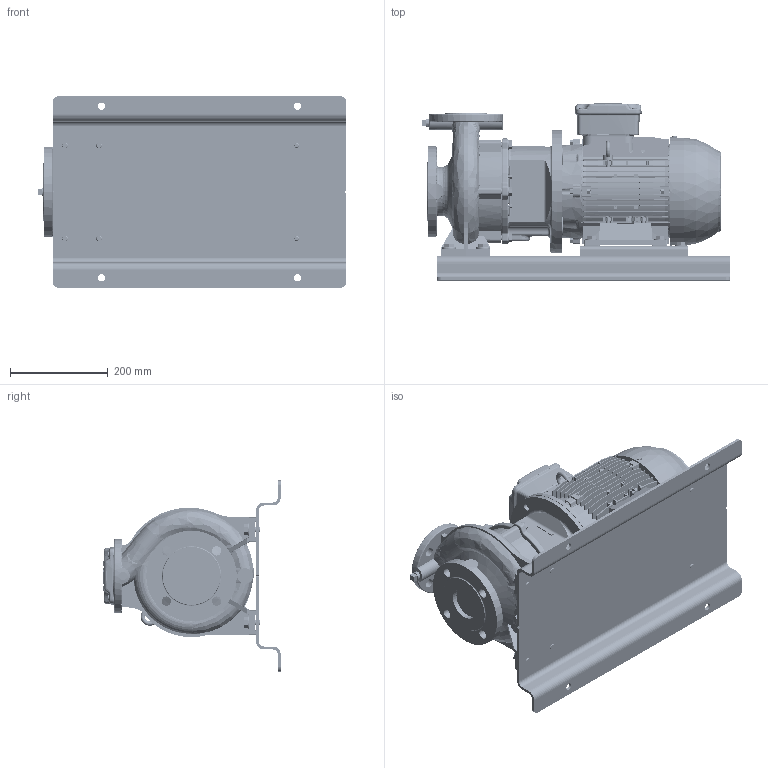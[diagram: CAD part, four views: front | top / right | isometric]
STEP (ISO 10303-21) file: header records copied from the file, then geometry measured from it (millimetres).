
FILE_DESCRIPTION (( 'STEP AP214' ), '1' );
FILE_NAME ('GSD2 40-160_4.0_(112M)_W21_BP.STEP', '2024-03-28T02:58:07', ( '' ), ( '' ), 'SwSTEP 2.0', 'SolidWorks 2019', '' );
FILE_SCHEMA (( 'AUTOMOTIVE_DESIGN' ));
Length unit declared in the file: millimetre
Products named in the file (9): Parametric Flat Washer_M10; Parametric bolt_SFT-A253B; 40-160-112M; Parametric bolt_SFT-A297B; GSD2  40-160_4.0_(112M)_W21_BP; 112M ALIE3_W21T_B35; Parametric Flat Washer_M12; 140 x 20 - 271472024; N3S3 GSDA-333 F1-1832905-00
Assembly tree (25 placements, depth 2):
  GSD2  40-160_4.0_(112M)_W21_BP
    40-160-112M
    112M ALIE3_W21T_B35
    N3S3 GSDA-333 F1-1832905-00
    140 x 20 - 271472024  x2
    Parametric bolt_SFT-A253B  x6
    Parametric bolt_SFT-A297B  x4
    Parametric Flat Washer_M12  x4
    Parametric Flat Washer_M10  x6
Bounding box: 630.65 x 362 x 390 mm (x, y, z)
Volume: 19846203.6 mm3; surface area: 1987267.9 mm2
Topology: 42 solids, 44 shells, 5149 faces, 13823 edges, 9041 vertices
Faces by surface type: plane 2678, cylinder 1217, bspline 491, torus 387, cone 365, sphere 11
Entity records: 211611 total; most frequent: CARTESIAN_POINT 88032, ORIENTED_EDGE 25286, DIRECTION 20543, EDGE_CURVE 12643, VERTEX_POINT 8279, VECTOR 7105, LINE 7105, AXIS2_PLACEMENT_3D 6719
